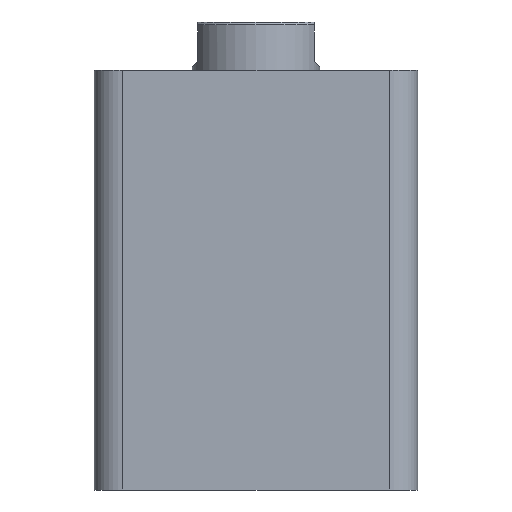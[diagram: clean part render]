
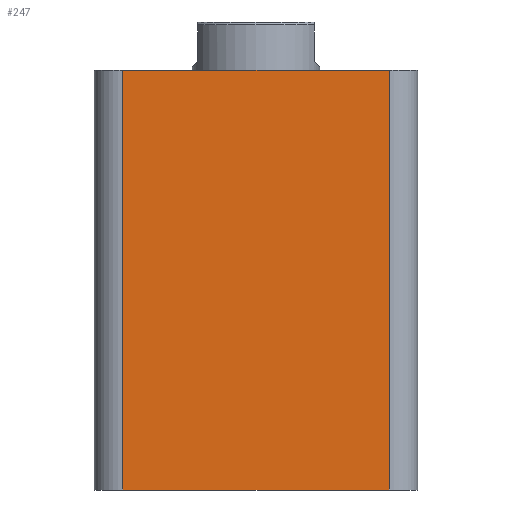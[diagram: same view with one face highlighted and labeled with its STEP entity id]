
A CAD part, front view. The second image highlights one B-rep face of the part: STEP entity #247.
In plain terms, the highlighted planar face has unit normal (0, -1, 0).
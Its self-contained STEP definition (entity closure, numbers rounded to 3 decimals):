
#9 = ORIENTED_EDGE ( 'NONE', *, *, #1362, .T. ) ;
#12 = ORIENTED_EDGE ( 'NONE', *, *, #1363, .F. ) ;
#14 = ORIENTED_EDGE ( 'NONE', *, *, #1364, .T. ) ;
#16 = ORIENTED_EDGE ( 'NONE', *, *, #1541, .T. ) ;
#247 = ADVANCED_FACE ( 'NONE', ( #1173 ), #1878, .F. ) ;
#983 = LINE ( 'NONE', #2172, #985 ) ;
#985 = VECTOR ( 'NONE', #2174, 1000. ) ;
#1173 = FACE_OUTER_BOUND ( 'NONE', #2655, .T. ) ;
#1324 = LINE ( 'NONE', #2487, #1329 ) ;
#1326 = LINE ( 'NONE', #2482, #1331 ) ;
#1329 = VECTOR ( 'NONE', #2489, 1000. ) ;
#1330 = LINE ( 'NONE', #2491, #1333 ) ;
#1331 = VECTOR ( 'NONE', #2490, 1000. ) ;
#1333 = VECTOR ( 'NONE', #2492, 1000. ) ;
#1362 = EDGE_CURVE ( 'NONE', #1723, #1812, #1324, .T. ) ;
#1363 = EDGE_CURVE ( 'NONE', #1813, #1814, #1326, .T. ) ;
#1364 = EDGE_CURVE ( 'NONE', #1813, #1723, #1330, .T. ) ;
#1541 = EDGE_CURVE ( 'NONE', #1812, #1814, #983, .T. ) ;
#1547 = AXIS2_PLACEMENT_3D ( 'NONE', #1876, #1880, #1881 ) ;
#1723 = VERTEX_POINT ( 'NONE', #2199 ) ;
#1812 = VERTEX_POINT ( 'NONE', #2288 ) ;
#1813 = VERTEX_POINT ( 'NONE', #2289 ) ;
#1814 = VERTEX_POINT ( 'NONE', #2290 ) ;
#1876 = CARTESIAN_POINT ( 'NONE',  ( -57., -57., 148. ) ) ;
#1878 = PLANE ( 'NONE',  #1547 ) ;
#1880 = DIRECTION ( 'NONE',  ( 0., 1., 0. ) ) ;
#1881 = DIRECTION ( 'NONE',  ( 0., 0., 1. ) ) ;
#2172 = CARTESIAN_POINT ( 'NONE',  ( 47., -57., 148. ) ) ;
#2174 = DIRECTION ( 'NONE',  ( 0., 0., 1. ) ) ;
#2199 = CARTESIAN_POINT ( 'NONE',  ( -47., -57., 0. ) ) ;
#2288 = CARTESIAN_POINT ( 'NONE',  ( 47., -57., 0. ) ) ;
#2289 = CARTESIAN_POINT ( 'NONE',  ( -47., -57., 148. ) ) ;
#2290 = CARTESIAN_POINT ( 'NONE',  ( 47., -57., 148. ) ) ;
#2482 = CARTESIAN_POINT ( 'NONE',  ( -57., -57., 148. ) ) ;
#2487 = CARTESIAN_POINT ( 'NONE',  ( -57., -57., 0. ) ) ;
#2489 = DIRECTION ( 'NONE',  ( 1., 0., 0. ) ) ;
#2490 = DIRECTION ( 'NONE',  ( 1., 0., 0. ) ) ;
#2491 = CARTESIAN_POINT ( 'NONE',  ( -47., -57., 148. ) ) ;
#2492 = DIRECTION ( 'NONE',  ( 0., 0., -1. ) ) ;
#2655 = EDGE_LOOP ( 'NONE', ( #9, #16, #12, #14 ) ) ;
